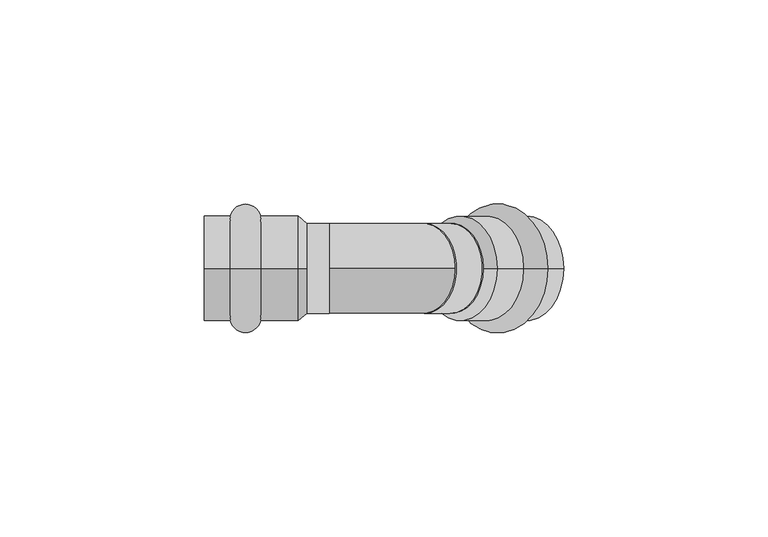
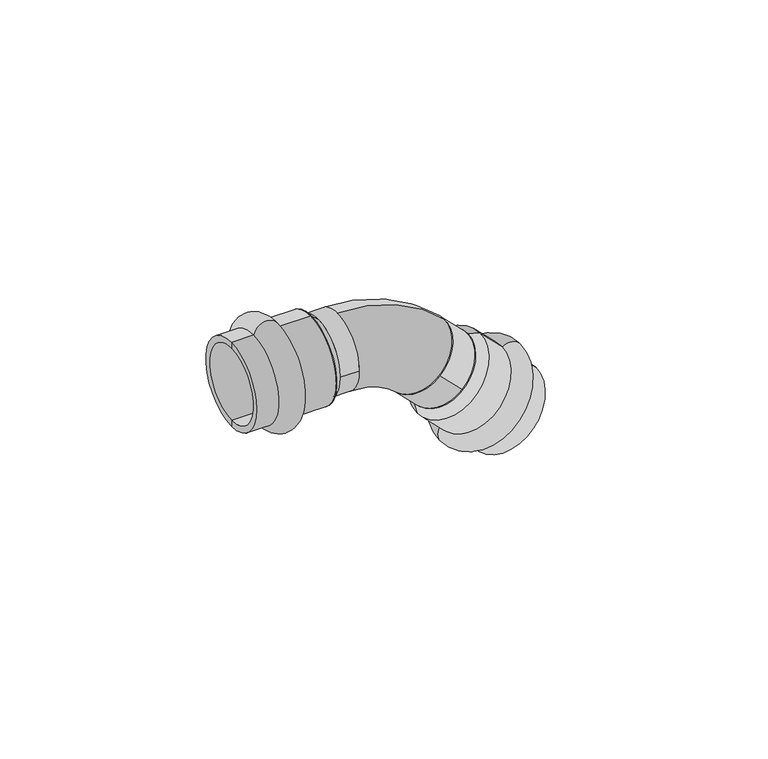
"""IFC4 building model written with IfcOpenShell, lengths in millimetres: pipe fitting geometry, VALTEC_VTi.959.I_Угольник 45° (раструб–раструб) нержавеющая сталь : Тип 1."""

from ifc_helpers import new_model, si_unit, point, frame, frame_2d, origin, origin_2d, place, context, project, spatial, polyline, circle_curve, ellipse_curve, trimmed, segment, composite_curve, outline, extrude, source, transform, mapped, element, save
from ifc_brep_helpers import plane_surface, cylinder_surface, revolved_surface, advanced_brep


def pipe_fitting_d5bc4fcd(model_context):
    return source(origin(), model_context, "Body", "SolidModel", [
        advanced_brep(
        [(-7.5, 0.0, 12.8), (-7.5, 0.0, -12.8), (-5.5, 0.0, 11.0), (-5.5, 0.0, -11.0)],
        [
            (0, 1, circle_curve(frame((-7.5, 0.0, 0.0), z_axis=(-1.0, 0.0, 0.0), x_axis=(0.0, 0.0, 1.0)), 12.8)),
            (1, 0, circle_curve(frame((-7.5, 0.0, 0.0), z_axis=(-1.0, 0.0, 0.0), x_axis=(0.0, 0.0, -1.0)), 12.8)),
            (2, 3, circle_curve(frame((-5.5, 0.0, 0.0), z_axis=(1.0, 0.0, 0.0), x_axis=(0.0, 0.0, -1.0)), 11.0)),
            (3, 2, circle_curve(frame((-5.5, 0.0, 0.0), z_axis=(1.0, 0.0, 0.0), x_axis=(0.0, 0.0, 1.0)), 11.0)),
            (3, 1),
            (0, 2),
        ],
        [
            plane_surface(frame((-7.5, 0.0, 0.0), z_axis=(-1.0, 0.0, 0.0), x_axis=(0.0, 1.0, 0.0))),
            plane_surface(frame((-5.5, 0.0, 0.0), z_axis=(1.0, 0.0, 0.0), x_axis=(0.0, 1.0, 0.0))),
            revolved_surface(polyline([(-5.500000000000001, 0.0, -10.999999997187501), (-7.500000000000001, 0.0, -12.8)]), (6.7222222, 0.0, 0.0), (-1.0, 0.0, 0.0)),
            revolved_surface(polyline([(-5.500000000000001, 0.0, 10.999999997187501), (-7.500000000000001, 0.0, 12.8)]), (6.7222222, 0.0, 0.0), (-1.0, 0.0, 0.0)),
        ],
        [
            (0, [[1, 2]]),
            (1, [[3, 4]]),
            (2, [[-4, 5, -1, 6]]),
            (3, [[-3, -6, -2, -5]]),
        ],
    ),
        advanced_brep(
        [(23.0041197, 0.0, -27.4370058), (41.1060533, 0.0, -9.3350722), (22.1555916, 0.0, -24.0428932), (37.7119408, 0.0, -8.486544)],
        [
            (0, 1, circle_curve(frame((32.0550865, 0.0, -18.386039), z_axis=(0.7071067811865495, 0.0, -0.7071067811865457), x_axis=(-0.7071067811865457, 0.0, -0.7071067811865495)), 12.8)),
            (1, 0, circle_curve(frame((32.0550865, 0.0, -18.386039), z_axis=(0.7071067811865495, 0.0, -0.7071067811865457), x_axis=(0.7071067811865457, 0.0, 0.7071067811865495)), 12.8)),
            (2, 3, circle_curve(frame((29.9337662, 0.0, -16.2647186), z_axis=(-0.7071067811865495, 0.0, 0.7071067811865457), x_axis=(0.7071067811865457, 0.0, 0.7071067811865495)), 11.0)),
            (3, 2, circle_curve(frame((29.9337662, 0.0, -16.2647186), z_axis=(-0.7071067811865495, 0.0, 0.7071067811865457), x_axis=(-0.7071067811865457, 0.0, -0.7071067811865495)), 11.0)),
            (3, 1),
            (0, 2),
        ],
        [
            plane_surface(frame((32.0550865, 0.0, -18.386039), z_axis=(0.7071067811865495, 0.0, -0.7071067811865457), x_axis=(0.0, 1.0, 0.0))),
            plane_surface(frame((29.9337662, 0.0, -16.2647186), z_axis=(-0.7071067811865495, 0.0, 0.7071067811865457), x_axis=(0.0, 1.0, 0.0))),
            revolved_surface(polyline([(37.711940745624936, 0.0, -8.486544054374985), (41.1060533, 0.0, -9.3350722)]), (16.9701419, 0.0, -3.3010943), (0.7071067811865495, 0.0, -0.7071067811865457)),
            revolved_surface(polyline([(22.1555915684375, 0.0, -24.042893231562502), (23.004119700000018, 0.0, -27.437005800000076)]), (16.9701419, 0.0, -3.3010943), (0.7071067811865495, 0.0, -0.7071067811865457)),
        ],
        [
            (0, [[1, 2]]),
            (1, [[3, 4]]),
            (2, [[-4, 5, -1, 6]]),
            (3, [[-3, -6, -2, -5]]),
        ],
    ),
        advanced_brep(
        [(-24.1242346, 0.0, -12.8), (-24.1242346, 0.0, 12.8), (-16.7757654, 0.0, 12.8), (-16.7757654, 0.0, -12.8), (-30.5, 0.0, -12.8), (-30.5, 0.0, 12.8), (-30.5, 0.0, -11.0), (-30.5, 0.0, 11.0), (-7.5, 0.0, -11.0), (-7.5, 0.0, 11.0), (-7.5, 0.0, -12.8), (-7.5, 0.0, 12.8)],
        [
            (0, 1, circle_curve(frame((-24.1242346, 0.0, 0.0), z_axis=(1.0, 0.0, 0.0), x_axis=(0.0, 0.0, 1.0)), 12.8)),
            (1, 2, circle_curve(frame((-20.45, 0.0, 12.05), z_axis=(0.0, 1.0, 0.0), x_axis=(1.0, 0.0, 0.0)), 3.75)),
            (2, 3, circle_curve(frame((-16.7757654, 0.0, 0.0), z_axis=(-1.0, 0.0, 0.0), x_axis=(0.0, 0.0, 1.0)), 12.8)),
            (3, 0, circle_curve(frame((-20.45, 0.0, -12.05), z_axis=(0.0, 1.0, 0.0), x_axis=(1.0, 0.0, 0.0)), 3.75)),
            (1, 0, circle_curve(frame((-24.1242346, 0.0, 0.0), z_axis=(1.0, 0.0, 0.0), x_axis=(0.0, 0.0, 1.0)), 12.8)),
            (3, 2, circle_curve(frame((-16.7757654, 0.0, 0.0), z_axis=(-1.0, 0.0, 0.0), x_axis=(0.0, 0.0, 1.0)), 12.8)),
            (4, 5, circle_curve(frame((-30.5, 0.0, 0.0), z_axis=(1.0, 0.0, 0.0), x_axis=(0.0, 0.0, 1.0)), 12.8)),
            (5, 1),
            (0, 4),
            (5, 4, circle_curve(frame((-30.5, 0.0, 0.0), z_axis=(1.0, 0.0, 0.0), x_axis=(0.0, 0.0, 1.0)), 12.8)),
            (6, 7, circle_curve(frame((-30.5, 0.0, 0.0), z_axis=(1.0, 0.0, 0.0), x_axis=(0.0, 0.0, 1.0)), 11.0)),
            (7, 5),
            (4, 6),
            (7, 6, circle_curve(frame((-30.5, 0.0, 0.0), z_axis=(1.0, 0.0, 0.0), x_axis=(0.0, 0.0, 1.0)), 11.0)),
            (8, 9, circle_curve(frame((-7.5, 0.0, 0.0), z_axis=(1.0, 0.0, 0.0), x_axis=(0.0, 0.0, 1.0)), 11.0)),
            (9, 7),
            (6, 8),
            (9, 8, circle_curve(frame((-7.5, 0.0, 0.0), z_axis=(1.0, 0.0, 0.0), x_axis=(0.0, 0.0, 1.0)), 11.0)),
            (10, 11, circle_curve(frame((-7.5, 0.0, 0.0), z_axis=(1.0, 0.0, 0.0), x_axis=(0.0, 0.0, 1.0)), 12.8)),
            (11, 9),
            (8, 10),
            (11, 10, circle_curve(frame((-7.5, 0.0, 0.0), z_axis=(1.0, 0.0, 0.0), x_axis=(0.0, 0.0, 1.0)), 12.8)),
            (2, 11),
            (10, 3),
        ],
        [
            revolved_surface(trimmed(ellipse_curve(frame((-20.45, 0.0, 12.05), z_axis=(0.0, -1.0, 0.0), x_axis=(1.0, 0.0, 0.0)), 3.75, 3.75), [point((-16.7757654, 0.0, 12.8))], [point((-24.1242346, 0.0, 12.8))], True, "CARTESIAN"), (-34.0364426, 0.0, 0.0), (-1.0, 0.0, 0.0)),
            cylinder_surface(frame((-34.0364426, 0.0, 0.0), z_axis=(-1.0, 0.0, 0.0), x_axis=(0.0, 0.0, 1.0)), 12.8),
            plane_surface(frame((-30.5, 0.0, 0.0), z_axis=(-1.0, 0.0, 0.0), x_axis=(0.0, 0.0, 1.0))),
            revolved_surface(polyline([(-30.5, 0.0, 11.0), (-7.5, 0.0, 11.0)]), (-34.0364426, 0.0, 0.0), (-1.0, 0.0, 0.0)),
            plane_surface(frame((-7.5, 0.0, 0.0), z_axis=(1.0, 0.0, 0.0), x_axis=(0.0, 0.0, 1.0))),
        ],
        [
            (0, [[1, 2, 3, 4]]),
            (0, [[5, -4, 6, -2]]),
            (1, [[7, 8, -1, 9]]),
            (1, [[10, -9, -5, -8]]),
            (2, [[11, 12, -7, 13]]),
            (2, [[14, -13, -10, -12]]),
            (3, [[15, 16, -11, 17]]),
            (3, [[18, -17, -14, -16]]),
            (4, [[19, 20, -15, 21]]),
            (4, [[22, -21, -18, -20]]),
            (1, [[-3, 23, -19, 24]]),
            (1, [[-6, -24, -22, -23]]),
        ],
    ),
        advanced_brep(
        [(52.8611624, 0.0, -21.0901812), (34.7592288, 0.0, -39.1921148), (29.5630763, 0.0, -33.9959624), (47.6650099, 0.0, -15.8940288), (57.3695093, 0.0, -25.5985281), (39.2675757, 0.0, -43.7004617), (56.0967171, 0.0, -26.8713203), (40.5403679, 0.0, -42.4276695), (39.8332611, 0.0, -10.6078644), (24.2769119, 0.0, -26.1642136), (41.1060533, 0.0, -9.3350722), (23.0041197, 0.0, -27.4370058)],
        [
            (0, 1, circle_curve(frame((43.8101956, 0.0, -30.141148), z_axis=(-0.7071067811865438, 0.0, 0.7071067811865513), x_axis=(-0.7071067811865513, 0.0, -0.7071067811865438)), 12.8)),
            (1, 2, circle_curve(frame((32.6914826, 0.0, -36.0637085), z_axis=(0.0, 1.0, 0.0), x_axis=(-0.7071067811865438, 0.0, 0.7071067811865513)), 3.75)),
            (2, 3, circle_curve(frame((38.6140431, 0.0, -24.9449956), z_axis=(0.7071067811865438, 0.0, -0.7071067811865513), x_axis=(-0.7071067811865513, 0.0, -0.7071067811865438)), 12.8)),
            (3, 0, circle_curve(frame((49.7327561, 0.0, -19.0224351), z_axis=(0.0, 1.0, 0.0), x_axis=(-0.7071067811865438, 0.0, 0.7071067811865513)), 3.75)),
            (1, 0, circle_curve(frame((43.8101956, 0.0, -30.141148), z_axis=(-0.7071067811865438, 0.0, 0.7071067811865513), x_axis=(-0.7071067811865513, 0.0, -0.7071067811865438)), 12.8)),
            (3, 2, circle_curve(frame((38.6140431, 0.0, -24.9449956), z_axis=(0.7071067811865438, 0.0, -0.7071067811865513), x_axis=(-0.7071067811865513, 0.0, -0.7071067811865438)), 12.8)),
            (4, 5, circle_curve(frame((48.3185425, 0.0, -34.6494949), z_axis=(-0.7071067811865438, 0.0, 0.7071067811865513), x_axis=(-0.7071067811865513, 0.0, -0.7071067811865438)), 12.8)),
            (5, 1),
            (0, 4),
            (5, 4, circle_curve(frame((48.3185425, 0.0, -34.6494949), z_axis=(-0.7071067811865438, 0.0, 0.7071067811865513), x_axis=(-0.7071067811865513, 0.0, -0.7071067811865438)), 12.8)),
            (6, 7, circle_curve(frame((48.3185425, 0.0, -34.6494949), z_axis=(-0.7071067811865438, 0.0, 0.7071067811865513), x_axis=(-0.7071067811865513, 0.0, -0.7071067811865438)), 11.0)),
            (7, 5),
            (4, 6),
            (7, 6, circle_curve(frame((48.3185425, 0.0, -34.6494949), z_axis=(-0.7071067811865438, 0.0, 0.7071067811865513), x_axis=(-0.7071067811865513, 0.0, -0.7071067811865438)), 11.0)),
            (8, 9, circle_curve(frame((32.0550865, 0.0, -18.386039), z_axis=(-0.7071067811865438, 0.0, 0.7071067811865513), x_axis=(-0.7071067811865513, 0.0, -0.7071067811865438)), 11.0)),
            (9, 7),
            (6, 8),
            (9, 8, circle_curve(frame((32.0550865, 0.0, -18.386039), z_axis=(-0.7071067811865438, 0.0, 0.7071067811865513), x_axis=(-0.7071067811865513, 0.0, -0.7071067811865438)), 11.0)),
            (10, 11, circle_curve(frame((32.0550865, 0.0, -18.386039), z_axis=(-0.7071067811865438, 0.0, 0.7071067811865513), x_axis=(-0.7071067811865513, 0.0, -0.7071067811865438)), 12.8)),
            (11, 9),
            (8, 10),
            (11, 10, circle_curve(frame((32.0550865, 0.0, -18.386039), z_axis=(-0.7071067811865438, 0.0, 0.7071067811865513), x_axis=(-0.7071067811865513, 0.0, -0.7071067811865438)), 12.8)),
            (2, 11),
            (10, 3),
        ],
        [
            revolved_surface(trimmed(ellipse_curve(frame((32.6914826, 0.0, -36.0637085), z_axis=(0.0, -1.0, 0.0), x_axis=(-0.7071067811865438, 0.0, 0.7071067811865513)), 3.75, 3.75), [point((29.5630763, 0.0, -33.9959624))], [point((34.7592288, 0.0, -39.1921148))], True, "CARTESIAN"), (50.8191851, 0.0, -37.1501375), (0.7071067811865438, 0.0, -0.7071067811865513)),
            cylinder_surface(frame((50.8191851, 0.0, -37.1501375), z_axis=(0.7071067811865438, 0.0, -0.7071067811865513), x_axis=(-0.7071067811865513, 0.0, -0.7071067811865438)), 12.8),
            plane_surface(frame((48.3185425, 0.0, -34.6494949), z_axis=(0.7071067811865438, 0.0, -0.7071067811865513), x_axis=(-0.7071067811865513, 0.0, -0.7071067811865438))),
            revolved_surface(polyline([(40.54036790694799, 0.0, -42.42766949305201), (24.27691195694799, 0.0, -26.164213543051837)]), (50.8191851, 0.0, -37.1501375), (0.7071067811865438, 0.0, -0.7071067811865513)),
            plane_surface(frame((32.0550865, 0.0, -18.386039), z_axis=(-0.7071067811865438, 0.0, 0.7071067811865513), x_axis=(-0.7071067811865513, 0.0, -0.7071067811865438))),
        ],
        [
            (0, [[1, 2, 3, 4]]),
            (0, [[5, -4, 6, -2]]),
            (1, [[7, 8, -1, 9]]),
            (1, [[10, -9, -5, -8]]),
            (2, [[11, 12, -7, 13]]),
            (2, [[14, -13, -10, -12]]),
            (3, [[15, 16, -11, 17]]),
            (3, [[18, -17, -14, -16]]),
            (4, [[19, 20, -15, 21]]),
            (4, [[22, -21, -18, -20]]),
            (1, [[-3, 23, -19, 24]]),
            (1, [[-6, -24, -22, -23]]),
        ],
    ),
        extrude(outline(composite_curve([segment(trimmed(circle_curve(origin_2d(), 11.0), [point((-11.0, 0.0))], [point((11.0, 0.0))], False, "CARTESIAN"), True, "CONTINUOUS"), segment(trimmed(circle_curve(origin_2d(), 11.0), [point((11.0, 0.0))], [point((-11.0, 0.0))], False, "CARTESIAN"), True, "CONTINUOUS")], self_intersect=False)), frame((-5.5, 0.0, 0.0), z_axis=(1.0, 0.0, 0.0), x_axis=(0.0, 1.0, 0.0)), (0.0, 0.0, 1.0), 5.5),
        extrude(outline(composite_curve([segment(trimmed(circle_curve(frame_2d((0.0, -11.0)), 11.0), [point((0.0, -22.0))], [point((0.0, 0.0))], False, "CARTESIAN"), True, "CONTINUOUS"), segment(trimmed(circle_curve(frame_2d((0.0, -11.0)), 11.0), [point((0.0, 0.0))], [point((0.0, -22.0))], False, "CARTESIAN"), True, "CONTINUOUS")], self_intersect=False)), frame((29.9337662, -11.0, -16.2647186), z_axis=(-0.7071067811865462, 0.0, 0.7071067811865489), x_axis=(-0.7071067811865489, 0.0, -0.7071067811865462)), (0.0, 0.0, 1.0), 9.3327381),
        advanced_brep(
        [(0.0, 0.0, -11.0), (0.0, 0.0, 11.0), (15.5563492, 0.0, -17.4436508), (31.1126984, 0.0, -1.8873016)],
        [
            (0, 1, circle_curve(frame((0.0, 0.0, 0.0), z_axis=(-1.0, 0.0, 0.0), x_axis=(0.0, 0.0, 1.0)), 11.0)),
            (1, 0, circle_curve(frame((0.0, 0.0, 0.0), z_axis=(-1.0, 0.0, 0.0), x_axis=(0.0, 0.0, 1.0)), 11.0)),
            (2, 3, circle_curve(frame((23.3345238, 0.0, -9.6654762), z_axis=(0.7071067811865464, 0.0, -0.7071067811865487), x_axis=(0.7071067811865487, 0.0, 0.7071067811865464)), 11.0)),
            (3, 2, circle_curve(frame((23.3345238, 0.0, -9.6654762), z_axis=(0.7071067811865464, 0.0, -0.7071067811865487), x_axis=(0.7071067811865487, 0.0, 0.7071067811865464)), 11.0)),
            (3, 1, circle_curve(frame((0.0, 0.0, -33.0), z_axis=(0.0, -1.0, 0.0), x_axis=(0.0, 0.0, 1.0)), 44.0)),
            (0, 2, circle_curve(frame((0.0, 0.0, -33.0), z_axis=(0.0, 1.0, 0.0), x_axis=(0.0, 0.0, 1.0)), 22.0)),
        ],
        [
            plane_surface(frame((0.0, 0.0, 0.0), z_axis=(-1.0, 0.0, 0.0), x_axis=(0.0, -1.0, 0.0))),
            plane_surface(frame((23.3345238, 0.0, -9.6654762), z_axis=(0.7071067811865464, 0.0, -0.7071067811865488), x_axis=(0.0, -1.0, 0.0))),
            revolved_surface(trimmed(ellipse_curve(frame((0.0, 0.0, 0.0), z_axis=(-1.0, 0.0, 0.0), x_axis=(0.0, 0.0, 1.0)), 11.0, 11.0), [point((0.0, 0.0, -11.0))], [point((0.0, 0.0, 11.0))], True, "CARTESIAN"), (0.0, 0.0, -33.0), (0.0, 1.0, 0.0)),
            revolved_surface(trimmed(ellipse_curve(frame((0.0, 0.0, 0.0), z_axis=(-1.0, 0.0, 0.0), x_axis=(0.0, 0.0, 1.0)), 11.0, 11.0), [point((0.0, 0.0, 11.0))], [point((0.0, 0.0, -11.0))], True, "CARTESIAN"), (0.0, 0.0, -33.0), (0.0, 1.0, 0.0)),
        ],
        [
            (0, [[1, 2]]),
            (1, [[3, 4]]),
            (2, [[5, -1, 6, -4]]),
            (3, [[-6, -2, -5, -3]]),
        ],
    ),
    ])


if __name__ == "__main__":
    model = new_model("IFC4")
    model_context = context("Model", 3, world=origin())
    ifc_project = project(units=[si_unit("LENGTHUNIT", "METRE", prefix="MILLI")], contexts=[model_context])
    site = spatial("IfcSite", under=ifc_project)
    building = spatial("IfcBuilding", under=site)
    placement = place(None, origin())
    pipe_fitting_shape = pipe_fitting_d5bc4fcd(model_context)
    element("IfcPipeFitting", 1, ObjectType="VALTEC_VTi.959.I_Угольник 45° (раструб–раструб) нержавеющая сталь : Тип 1", at=placement, inside=building, context=model_context, shape_type="MappedRepresentation", body=[
        mapped(pipe_fitting_shape, transform((0.0, 0.0, 0.0), x_axis=(1.0, 0.0, 0.0), y_axis=(0.0, 1.0, 0.0), z_axis=(0.0, 0.0, 1.0))),
    ])
    save(model, "model.ifc")
